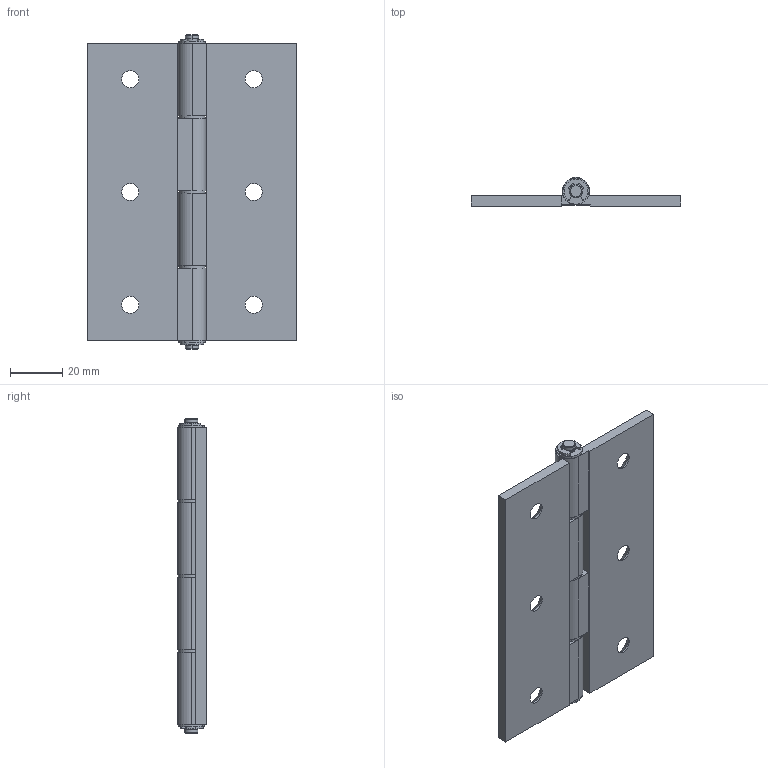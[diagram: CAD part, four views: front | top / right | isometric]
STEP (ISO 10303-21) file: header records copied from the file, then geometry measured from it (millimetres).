
FILE_DESCRIPTION (( 'STEP AP203' ), '1' );
FILE_NAME ('SK2-168-27.STEP', '2020-01-03T01:35:32', ( 'admin' ), ( 'Microsoft' ), 'SwSTEP 2.0', 'SolidWorks 2018', '' );
FILE_SCHEMA (( 'CONFIG_CONTROL_DESIGN' ));
Length unit declared in the file: millimetre
Products named in the file (5): e rings gb_GB_CONNECTING_PIECE_RINGS_HR 4; 2-168-27-F1; SK2-168-27; 2-168-27-F2; 2-168-27-F3
Assembly tree (10 placements, depth 2):
  SK2-168-27
    2-168-27-F1  x2
    2-168-27-F2  x5
    2-168-27-F3
    e rings gb_GB_CONNECTING_PIECE_RINGS_HR 4  x2
Bounding box: 80 x 11 x 120 mm (x, y, z)
Volume: 40268.3 mm3; surface area: 26338.2 mm2
Topology: 10 solids, 10 shells, 164 faces, 404 edges, 264 vertices
Faces by surface type: cylinder 90, plane 58, cone 16
Entity records: 3214 total; most frequent: DIRECTION 493, CARTESIAN_POINT 431, ORIENTED_EDGE 406, EDGE_CURVE 203, AXIS2_PLACEMENT_3D 194, VERTEX_POINT 132, LINE 105, VECTOR 105
